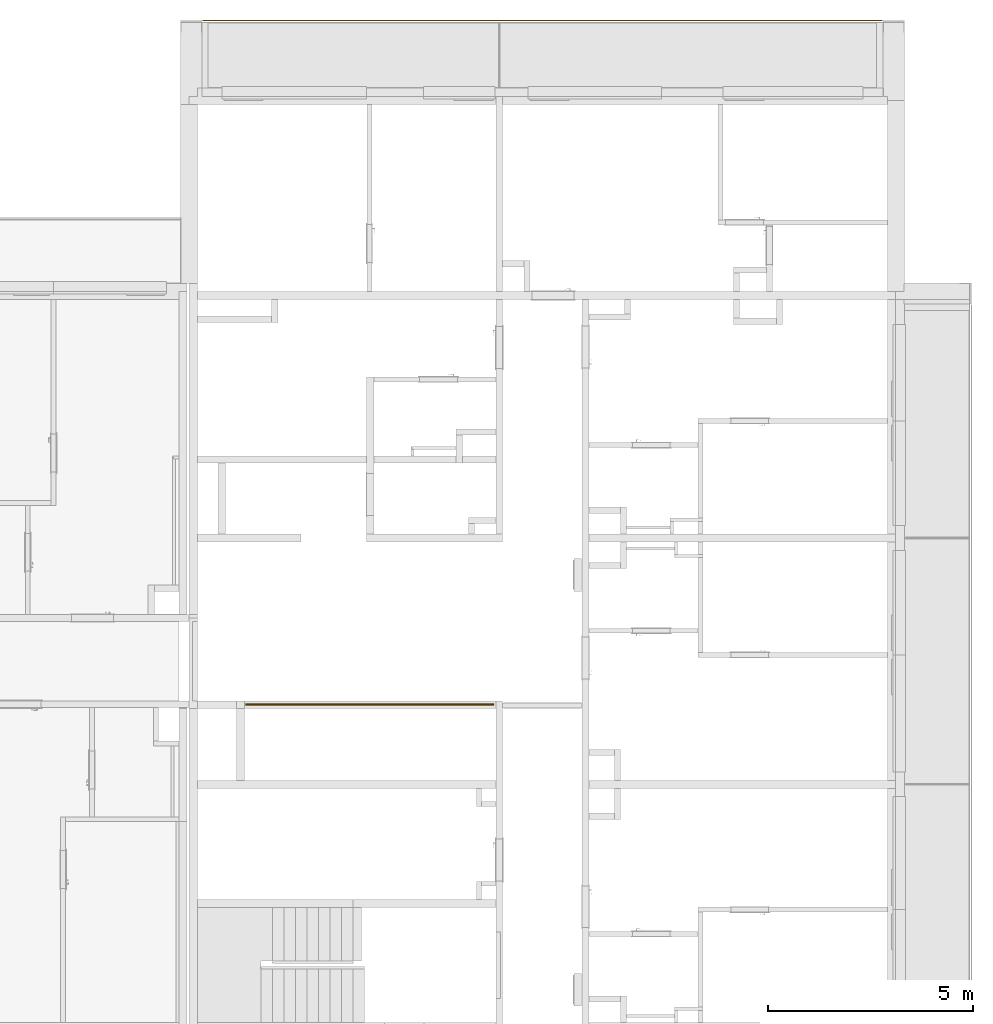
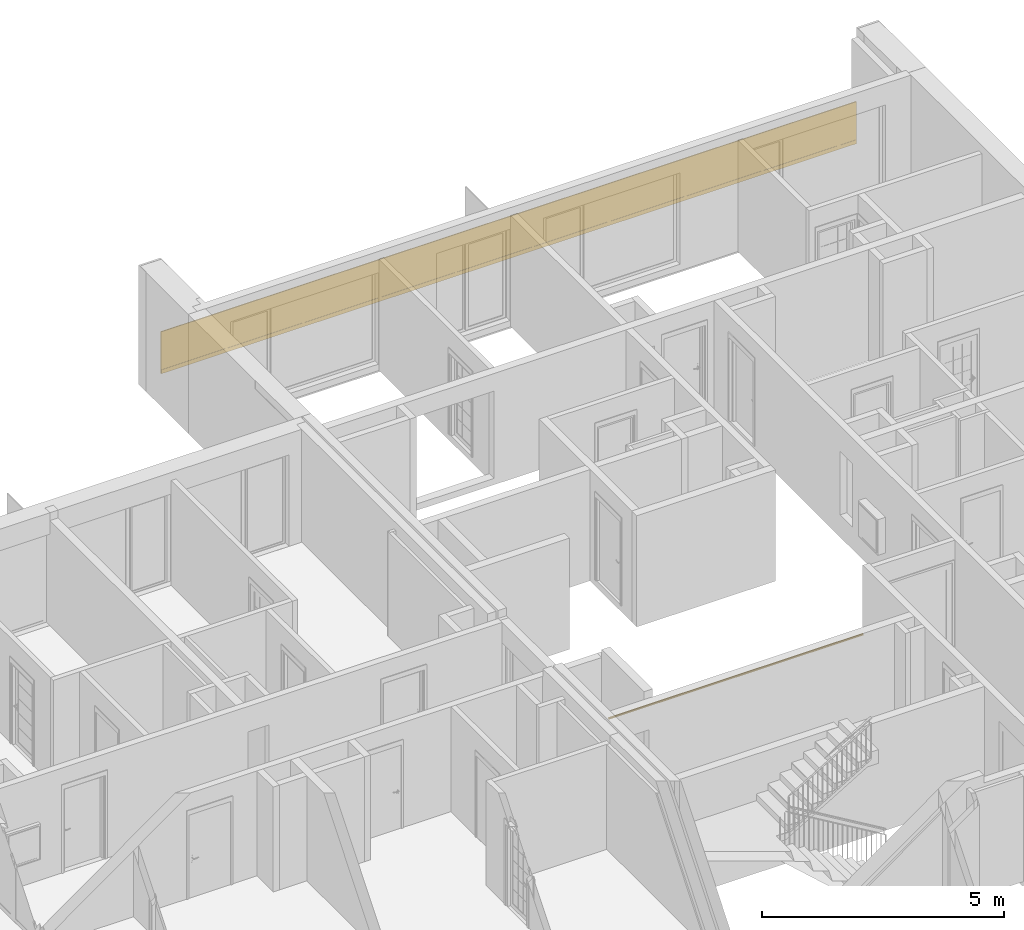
# One storey, part 9 of 66: 2 railings.
"""IFC2X3 building model written with IfcOpenShell, lengths in millimetres."""

from ifc_helpers import new_model, entity, si_unit, converted_unit, derived_unit, money_unit, direction, frame, origin_with_axes, place, context, subcontext, project, spatial, faceted_brep, material, material_list, type_object, element, save


model = new_model("IFC2X3")

# Units and contexts
model_context = context("Model", 3, precision=0.01, world=origin_with_axes(), true_north=direction((0.34421633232, 0.938890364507)))
body_context = subcontext(model_context, "Body", "Model", "MODEL_VIEW")
ifc_project = project(units=[si_unit("LENGTHUNIT", "METRE", prefix="MILLI"), si_unit("AREAUNIT", "SQUARE_METRE"), si_unit("VOLUMEUNIT", "CUBIC_METRE"), converted_unit("PLANEANGLEUNIT", "DEGREE", entity("IfcPlaneAngleMeasure", 0.0174532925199), si_unit("PLANEANGLEUNIT", "RADIAN"), dimensions=[0, 0, 0, 0, 0, 0, 0]), si_unit("SOLIDANGLEUNIT", "STERADIAN"), money_unit("USD"), converted_unit("TIMEUNIT", "Year", entity("IfcTimeMeasure", 31556926.0), si_unit("TIMEUNIT", "SECOND"), dimensions=[0, 0, 1, 0, 0, 0, 0]), si_unit("MASSUNIT", "GRAM", prefix="KILO"), si_unit("THERMODYNAMICTEMPERATUREUNIT", "DEGREE_CELSIUS"), si_unit("LUMINOUSINTENSITYUNIT", "LUMEN"), si_unit("ENERGYUNIT", "JOULE", prefix="MEGA"), derived_unit("THERMALCONDUCTANCEUNIT", [(si_unit("POWERUNIT", "WATT"), 1), (si_unit("LENGTHUNIT", "METRE"), -1), (si_unit("THERMODYNAMICTEMPERATUREUNIT", "KELVIN"), -1)]), derived_unit("SPECIFICHEATCAPACITYUNIT", [(si_unit("ENERGYUNIT", "JOULE"), 1), (si_unit("MASSUNIT", "GRAM", prefix="KILO"), -1), (si_unit("THERMODYNAMICTEMPERATUREUNIT", "KELVIN"), -1)]), derived_unit("MASSDENSITYUNIT", [(si_unit("MASSUNIT", "GRAM", prefix="KILO"), 1), (si_unit("VOLUMEUNIT", "CUBIC_METRE"), -1)])], contexts=[model_context])

# Site, building, storey
site_placement = place(None, origin_with_axes())
site = spatial("IfcSite", under=ifc_project, at=site_placement, Name="USTRONIE MORSKIE", CompositionType="ELEMENT")
building_placement = place(site_placement, origin_with_axes())
building = spatial("IfcBuilding", under=site, at=building_placement, Name="Budynek", CompositionType="ELEMENT")
storey_placement = place(building_placement, frame((0.0, 0.0, 10000.0), z_axis=(0.0, 0.0, 1.0), x_axis=(1.0, 0.0, 0.0)))
storey = spatial("IfcBuildingStorey", under=building, at=storey_placement, Name="PIĘTRO 3", CompositionType="ELEMENT", Elevation=10000.0)

# Railings
ifc_material_1 = material(Name="Stal nierdzewna")
ifc_material_list_1 = material_list([ifc_material_1, ifc_material_1, ifc_material_1])
railing_type = type_object("IfcRailingType", Name="Typ balustrady", PredefinedType="NOTDEFINED")
railing_1_placement = place(storey_placement, frame((409867.915713, 734741.198985, 0.0), z_axis=(0.0, 0.0, 1.0), x_axis=(1.0, 0.0, 0.0)))
element("IfcRailing", 1, at=railing_1_placement, inside=storey, type_object=railing_type, material=ifc_material_list_1, Name="BL1", PredefinedType="NOTDEFINED", context=body_context, shape_type="Brep", body=[
    faceted_brep([(20.0, -25.0, 975.0), (20.0, -24.6201938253, 979.341204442), (-30.0, -24.6201938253, 979.341204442), (-30.0, -25.0, 975.0), (20.0, -24.6201938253, 970.658795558), (20.0, -23.4923155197, 966.449496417), (20.0, -21.6506350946, 962.5), (20.0, -19.151111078, 958.930309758), (20.0, -16.0696902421, 955.848888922), (20.0, -12.5, 953.349364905), (20.0, -8.55050358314, 951.50768448), (20.0, -4.34120444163, 950.379806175), (20.0, 0.0, 950.0), (20.0, 4.34120444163, 950.379806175), (20.0, 8.55050358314, 951.50768448), (20.0, 12.5, 953.349364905), (20.0, 16.0696902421, 955.848888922), (20.0, 19.151111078, 958.930309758), (20.0, 21.6506350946, 962.5), (20.0, 23.4923155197, 966.449496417), (20.0, 24.6201938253, 970.658795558), (20.0, 25.0, 975.0), (20.0, 24.6201938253, 979.341204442), (20.0, 23.4923155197, 983.550503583), (20.0, 21.6506350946, 987.5), (20.0, 19.151111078, 991.069690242), (20.0, 16.0696902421, 994.151111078), (20.0, 12.5, 996.650635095), (20.0, 8.55050358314, 998.49231552), (20.0, 4.34120444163, 999.620193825), (20.0, 0.0, 1000.0), (20.0, -4.34120444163, 999.620193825), (20.0, -8.55050358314, 998.49231552), (20.0, -12.5, 996.650635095), (20.0, -16.0696902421, 994.151111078), (20.0, -19.151111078, 991.069690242), (20.0, -21.6506350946, 987.5), (20.0, -23.4923155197, 983.550503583), (20.0, -15.0, 975.0), (20.0, -14.7721162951, 977.604722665), (20.0, -14.0953893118, 980.13030215), (20.0, -12.9903810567, 982.5), (20.0, -11.4906666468, 984.641814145), (20.0, -9.64181414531, 986.490666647), (20.0, -7.50000000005, 987.990381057), (20.0, -5.13030214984, 989.095389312), (20.0, -2.60472266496, 989.772116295), (20.0, 0.0, 990.0), (20.0, 2.60472266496, 989.772116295), (20.0, 5.13030214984, 989.095389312), (20.0, 7.50000000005, 987.990381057), (20.0, 9.64181414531, 986.490666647), (20.0, 11.4906666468, 984.641814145), (20.0, 12.9903810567, 982.5), (20.0, 14.0953893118, 980.13030215), (20.0, 14.7721162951, 977.604722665), (20.0, 15.0, 975.0), (20.0, 14.7721162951, 972.395277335), (20.0, 14.0953893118, 969.86969785), (20.0, 12.9903810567, 967.5), (20.0, 11.4906666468, 965.358185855), (20.0, 9.64181414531, 963.509333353), (20.0, 7.50000000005, 962.009618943), (20.0, 5.13030214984, 960.904610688), (20.0, 2.60472266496, 960.227883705), (20.0, 0.0, 960.0), (20.0, -2.60472266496, 960.227883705), (20.0, -5.13030214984, 960.904610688), (20.0, -7.50000000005, 962.009618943), (20.0, -9.64181414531, 963.509333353), (20.0, -11.4906666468, 965.358185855), (20.0, -12.9903810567, 967.5), (20.0, -14.0953893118, 969.86969785), (20.0, -14.7721162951, 972.395277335), (-30.0, -23.4923155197, 983.550503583), (-30.0, -21.6506350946, 987.5), (-30.0, -19.151111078, 991.069690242), (-30.0, -16.0696902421, 994.151111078), (-30.0, -12.5, 996.650635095), (-30.0, -8.55050358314, 998.49231552), (-30.0, -4.34120444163, 999.620193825), (-30.0, 0.0, 1000.0), (-30.0, 4.34120444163, 999.620193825), (-30.0, 8.55050358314, 998.49231552), (-30.0, 12.5, 996.650635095), (-30.0, 16.0696902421, 994.151111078), (-30.0, 19.151111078, 991.069690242), (-30.0, 21.6506350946, 987.5), (-30.0, 23.4923155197, 983.550503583), (-30.0, 24.6201938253, 979.341204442), (-30.0, 25.0, 975.0), (-30.0, 24.6201938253, 970.658795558), (-30.0, 23.4923155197, 966.449496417), (-30.0, 21.6506350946, 962.5), (-30.0, 19.151111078, 958.930309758), (-30.0, 16.0696902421, 955.848888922), (-30.0, 12.5, 953.349364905), (-30.0, 8.55050358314, 951.50768448), (-30.0, 4.34120444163, 950.379806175), (-30.0, 0.0, 950.0), (-30.0, -4.34120444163, 950.379806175), (-30.0, -8.55050358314, 951.50768448), (-30.0, -12.5, 953.349364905), (-30.0, -16.0696902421, 955.848888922), (-30.0, -19.151111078, 958.930309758), (-30.0, -21.6506350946, 962.5), (-30.0, -23.4923155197, 966.449496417), (-30.0, -24.6201938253, 970.658795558), (-30.0, -15.0, 975.0), (-30.0, -14.7721162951, 972.395277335), (-30.0, -14.0953893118, 969.86969785), (-30.0, -12.9903810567, 967.5), (-30.0, -11.4906666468, 965.358185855), (-30.0, -9.64181414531, 963.509333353), (-30.0, -7.50000000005, 962.009618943), (-30.0, -5.13030214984, 960.904610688), (-30.0, -2.60472266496, 960.227883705), (-30.0, 0.0, 960.0), (-30.0, 2.60472266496, 960.227883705), (-30.0, 5.13030214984, 960.904610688), (-30.0, 7.50000000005, 962.009618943), (-30.0, 9.64181414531, 963.509333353), (-30.0, 11.4906666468, 965.358185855), (-30.0, 12.9903810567, 967.5), (-30.0, 14.0953893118, 969.86969785), (-30.0, 14.7721162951, 972.395277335), (-30.0, 15.0, 975.0), (-30.0, 14.7721162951, 977.604722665), (-30.0, 14.0953893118, 980.13030215), (-30.0, 12.9903810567, 982.5), (-30.0, 11.4906666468, 984.641814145), (-30.0, 9.64181414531, 986.490666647), (-30.0, 7.50000000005, 987.990381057), (-30.0, 5.13030214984, 989.095389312), (-30.0, 2.60472266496, 989.772116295), (-30.0, 0.0, 990.0), (-30.0, -2.60472266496, 989.772116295), (-30.0, -5.13030214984, 989.095389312), (-30.0, -7.50000000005, 987.990381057), (-30.0, -9.64181414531, 986.490666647), (-30.0, -11.4906666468, 984.641814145), (-30.0, -12.9903810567, 982.5), (-30.0, -14.0953893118, 980.13030215), (-30.0, -14.7721162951, 977.604722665)], [[[0, 1, 2, 3]], [[0, 4, 5, 6, 7, 8, 9, 10, 11, 12, 13, 14, 15, 16, 17, 18, 19, 20, 21, 22, 23, 24, 25, 26, 27, 28, 29, 30, 31, 32, 33, 34, 35, 36, 37, 1], [38, 39, 40, 41, 42, 43, 44, 45, 46, 47, 48, 49, 50, 51, 52, 53, 54, 55, 56, 57, 58, 59, 60, 61, 62, 63, 64, 65, 66, 67, 68, 69, 70, 71, 72, 73]], [[1, 37, 74, 2]], [[3, 2, 74, 75, 76, 77, 78, 79, 80, 81, 82, 83, 84, 85, 86, 87, 88, 89, 90, 91, 92, 93, 94, 95, 96, 97, 98, 99, 100, 101, 102, 103, 104, 105, 106, 107], [108, 109, 110, 111, 112, 113, 114, 115, 116, 117, 118, 119, 120, 121, 122, 123, 124, 125, 126, 127, 128, 129, 130, 131, 132, 133, 134, 135, 136, 137, 138, 139, 140, 141, 142, 143]], [[4, 0, 3, 107]], [[5, 4, 107, 106]], [[6, 5, 106, 105]], [[7, 6, 105, 104]], [[8, 7, 104, 103]], [[9, 8, 103, 102]], [[10, 9, 102, 101]], [[11, 10, 101, 100]], [[12, 11, 100, 99]], [[13, 12, 99, 98]], [[14, 13, 98, 97]], [[15, 14, 97, 96]], [[16, 15, 96, 95]], [[17, 16, 95, 94]], [[18, 17, 94, 93]], [[19, 18, 93, 92]], [[20, 19, 92, 91]], [[21, 20, 91, 90]], [[22, 21, 90, 89]], [[23, 22, 89, 88]], [[24, 23, 88, 87]], [[25, 24, 87, 86]], [[26, 25, 86, 85]], [[27, 26, 85, 84]], [[28, 27, 84, 83]], [[29, 28, 83, 82]], [[30, 29, 82, 81]], [[31, 30, 81, 80]], [[32, 31, 80, 79]], [[33, 32, 79, 78]], [[34, 33, 78, 77]], [[35, 34, 77, 76]], [[36, 35, 76, 75]], [[37, 36, 75, 74]], [[39, 38, 108, 143]], [[40, 39, 143, 142]], [[41, 40, 142, 141]], [[42, 41, 141, 140]], [[43, 42, 140, 139]], [[44, 43, 139, 138]], [[45, 44, 138, 137]], [[46, 45, 137, 136]], [[47, 46, 136, 135]], [[48, 47, 135, 134]], [[49, 48, 134, 133]], [[50, 49, 133, 132]], [[51, 50, 132, 131]], [[52, 51, 131, 130]], [[53, 52, 130, 129]], [[54, 53, 129, 128]], [[55, 54, 128, 127]], [[56, 55, 127, 126]], [[57, 56, 126, 125]], [[58, 57, 125, 124]], [[59, 58, 124, 123]], [[60, 59, 123, 122]], [[61, 60, 122, 121]], [[62, 61, 121, 120]], [[63, 62, 120, 119]], [[64, 63, 119, 118]], [[65, 64, 118, 117]], [[66, 65, 117, 116]], [[67, 66, 116, 115]], [[68, 67, 115, 114]], [[69, 68, 114, 113]], [[70, 69, 113, 112]], [[71, 70, 112, 111]], [[72, 71, 111, 110]], [[73, 72, 110, 109]], [[38, 73, 109, 108]]]),
    faceted_brep([(5970.00520575, 25.0, 975.0), (5970.00520575, 24.6201938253, 979.341204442), (6020.00520575, 24.6201938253, 979.341204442), (6020.00520575, 25.0, 975.0), (5970.00520575, 24.6201938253, 970.658795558), (5970.00520575, 23.4923155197, 966.449496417), (5970.00520575, 21.6506350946, 962.5), (5970.00520575, 19.151111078, 958.930309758), (5970.00520575, 16.0696902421, 955.848888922), (5970.00520575, 12.5, 953.349364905), (5970.00520575, 8.55050358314, 951.50768448), (5970.00520575, 4.34120444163, 950.379806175), (5970.00520575, 0.0, 950.0), (5970.00520575, -4.34120444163, 950.379806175), (5970.00520575, -8.55050358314, 951.50768448), (5970.00520575, -12.5, 953.349364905), (5970.00520575, -16.0696902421, 955.848888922), (5970.00520575, -19.151111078, 958.930309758), (5970.00520575, -21.6506350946, 962.5), (5970.00520575, -23.4923155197, 966.449496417), (5970.00520575, -24.6201938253, 970.658795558), (5970.00520575, -25.0, 975.0), (5970.00520575, -24.6201938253, 979.341204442), (5970.00520575, -23.4923155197, 983.550503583), (5970.00520575, -21.6506350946, 987.5), (5970.00520575, -19.151111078, 991.069690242), (5970.00520575, -16.0696902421, 994.151111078), (5970.00520575, -12.5, 996.650635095), (5970.00520575, -8.55050358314, 998.49231552), (5970.00520575, -4.34120444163, 999.620193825), (5970.00520575, 0.0, 1000.0), (5970.00520575, 4.34120444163, 999.620193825), (5970.00520575, 8.55050358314, 998.49231552), (5970.00520575, 12.5, 996.650635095), (5970.00520575, 16.0696902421, 994.151111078), (5970.00520575, 19.151111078, 991.069690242), (5970.00520575, 21.6506350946, 987.5), (5970.00520575, 23.4923155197, 983.550503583), (5970.00520575, 15.0, 975.0), (5970.00520575, 14.7721162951, 977.604722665), (5970.00520575, 14.0953893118, 980.13030215), (5970.00520575, 12.9903810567, 982.5), (5970.00520575, 11.4906666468, 984.641814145), (5970.00520575, 9.64181414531, 986.490666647), (5970.00520575, 7.50000000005, 987.990381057), (5970.00520575, 5.13030214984, 989.095389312), (5970.00520575, 2.60472266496, 989.772116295), (5970.00520575, 0.0, 990.0), (5970.00520575, -2.60472266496, 989.772116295), (5970.00520575, -5.13030214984, 989.095389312), (5970.00520575, -7.50000000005, 987.990381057), (5970.00520575, -9.64181414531, 986.490666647), (5970.00520575, -11.4906666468, 984.641814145), (5970.00520575, -12.9903810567, 982.5), (5970.00520575, -14.0953893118, 980.13030215), (5970.00520575, -14.7721162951, 977.604722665), (5970.00520575, -15.0, 975.0), (5970.00520575, -14.7721162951, 972.395277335), (5970.00520575, -14.0953893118, 969.86969785), (5970.00520575, -12.9903810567, 967.5), (5970.00520575, -11.4906666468, 965.358185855), (5970.00520575, -9.64181414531, 963.509333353), (5970.00520575, -7.50000000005, 962.009618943), (5970.00520575, -5.13030214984, 960.904610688), (5970.00520575, -2.60472266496, 960.227883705), (5970.00520575, 0.0, 960.0), (5970.00520575, 2.60472266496, 960.227883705), (5970.00520575, 5.13030214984, 960.904610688), (5970.00520575, 7.50000000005, 962.009618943), (5970.00520575, 9.64181414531, 963.509333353), (5970.00520575, 11.4906666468, 965.358185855), (5970.00520575, 12.9903810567, 967.5), (5970.00520575, 14.0953893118, 969.86969785), (5970.00520575, 14.7721162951, 972.395277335), (6020.00520575, 23.4923155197, 983.550503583), (6020.00520575, 21.6506350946, 987.5), (6020.00520575, 19.151111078, 991.069690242), (6020.00520575, 16.0696902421, 994.151111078), (6020.00520575, 12.5, 996.650635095), (6020.00520575, 8.55050358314, 998.49231552), (6020.00520575, 4.34120444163, 999.620193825), (6020.00520575, 0.0, 1000.0), (6020.00520575, -4.34120444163, 999.620193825), (6020.00520575, -8.55050358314, 998.49231552), (6020.00520575, -12.5, 996.650635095), (6020.00520575, -16.0696902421, 994.151111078), (6020.00520575, -19.151111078, 991.069690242), (6020.00520575, -21.6506350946, 987.5), (6020.00520575, -23.4923155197, 983.550503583), (6020.00520575, -24.6201938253, 979.341204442), (6020.00520575, -25.0, 975.0), (6020.00520575, -24.6201938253, 970.658795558), (6020.00520575, -23.4923155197, 966.449496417), (6020.00520575, -21.6506350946, 962.5), (6020.00520575, -19.151111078, 958.930309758), (6020.00520575, -16.0696902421, 955.848888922), (6020.00520575, -12.5, 953.349364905), (6020.00520575, -8.55050358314, 951.50768448), (6020.00520575, -4.34120444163, 950.379806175), (6020.00520575, 0.0, 950.0), (6020.00520575, 4.34120444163, 950.379806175), (6020.00520575, 8.55050358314, 951.50768448), (6020.00520575, 12.5, 953.349364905), (6020.00520575, 16.0696902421, 955.848888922), (6020.00520575, 19.151111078, 958.930309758), (6020.00520575, 21.6506350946, 962.5), (6020.00520575, 23.4923155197, 966.449496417), (6020.00520575, 24.6201938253, 970.658795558), (6020.00520575, 15.0, 975.0), (6020.00520575, 14.7721162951, 972.395277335), (6020.00520575, 14.0953893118, 969.86969785), (6020.00520575, 12.9903810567, 967.5), (6020.00520575, 11.4906666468, 965.358185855), (6020.00520575, 9.64181414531, 963.509333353), (6020.00520575, 7.50000000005, 962.009618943), (6020.00520575, 5.13030214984, 960.904610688), (6020.00520575, 2.60472266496, 960.227883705), (6020.00520575, 0.0, 960.0), (6020.00520575, -2.60472266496, 960.227883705), (6020.00520575, -5.13030214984, 960.904610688), (6020.00520575, -7.50000000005, 962.009618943), (6020.00520575, -9.64181414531, 963.509333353), (6020.00520575, -11.4906666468, 965.358185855), (6020.00520575, -12.9903810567, 967.5), (6020.00520575, -14.0953893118, 969.86969785), (6020.00520575, -14.7721162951, 972.395277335), (6020.00520575, -15.0, 975.0), (6020.00520575, -14.7721162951, 977.604722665), (6020.00520575, -14.0953893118, 980.13030215), (6020.00520575, -12.9903810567, 982.5), (6020.00520575, -11.4906666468, 984.641814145), (6020.00520575, -9.64181414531, 986.490666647), (6020.00520575, -7.50000000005, 987.990381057), (6020.00520575, -5.13030214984, 989.095389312), (6020.00520575, -2.60472266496, 989.772116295), (6020.00520575, 0.0, 990.0), (6020.00520575, 2.60472266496, 989.772116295), (6020.00520575, 5.13030214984, 989.095389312), (6020.00520575, 7.50000000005, 987.990381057), (6020.00520575, 9.64181414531, 986.490666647), (6020.00520575, 11.4906666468, 984.641814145), (6020.00520575, 12.9903810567, 982.5), (6020.00520575, 14.0953893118, 980.13030215), (6020.00520575, 14.7721162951, 977.604722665)], [[[0, 1, 2, 3]], [[0, 4, 5, 6, 7, 8, 9, 10, 11, 12, 13, 14, 15, 16, 17, 18, 19, 20, 21, 22, 23, 24, 25, 26, 27, 28, 29, 30, 31, 32, 33, 34, 35, 36, 37, 1], [38, 39, 40, 41, 42, 43, 44, 45, 46, 47, 48, 49, 50, 51, 52, 53, 54, 55, 56, 57, 58, 59, 60, 61, 62, 63, 64, 65, 66, 67, 68, 69, 70, 71, 72, 73]], [[1, 37, 74, 2]], [[3, 2, 74, 75, 76, 77, 78, 79, 80, 81, 82, 83, 84, 85, 86, 87, 88, 89, 90, 91, 92, 93, 94, 95, 96, 97, 98, 99, 100, 101, 102, 103, 104, 105, 106, 107], [108, 109, 110, 111, 112, 113, 114, 115, 116, 117, 118, 119, 120, 121, 122, 123, 124, 125, 126, 127, 128, 129, 130, 131, 132, 133, 134, 135, 136, 137, 138, 139, 140, 141, 142, 143]], [[4, 0, 3, 107]], [[5, 4, 107, 106]], [[6, 5, 106, 105]], [[7, 6, 105, 104]], [[8, 7, 104, 103]], [[9, 8, 103, 102]], [[10, 9, 102, 101]], [[11, 10, 101, 100]], [[12, 11, 100, 99]], [[13, 12, 99, 98]], [[14, 13, 98, 97]], [[15, 14, 97, 96]], [[16, 15, 96, 95]], [[17, 16, 95, 94]], [[18, 17, 94, 93]], [[19, 18, 93, 92]], [[20, 19, 92, 91]], [[21, 20, 91, 90]], [[22, 21, 90, 89]], [[23, 22, 89, 88]], [[24, 23, 88, 87]], [[25, 24, 87, 86]], [[26, 25, 86, 85]], [[27, 26, 85, 84]], [[28, 27, 84, 83]], [[29, 28, 83, 82]], [[30, 29, 82, 81]], [[31, 30, 81, 80]], [[32, 31, 80, 79]], [[33, 32, 79, 78]], [[34, 33, 78, 77]], [[35, 34, 77, 76]], [[36, 35, 76, 75]], [[37, 36, 75, 74]], [[39, 38, 108, 143]], [[40, 39, 143, 142]], [[41, 40, 142, 141]], [[42, 41, 141, 140]], [[43, 42, 140, 139]], [[44, 43, 139, 138]], [[45, 44, 138, 137]], [[46, 45, 137, 136]], [[47, 46, 136, 135]], [[48, 47, 135, 134]], [[49, 48, 134, 133]], [[50, 49, 133, 132]], [[51, 50, 132, 131]], [[52, 51, 131, 130]], [[53, 52, 130, 129]], [[54, 53, 129, 128]], [[55, 54, 128, 127]], [[56, 55, 127, 126]], [[57, 56, 126, 125]], [[58, 57, 125, 124]], [[59, 58, 124, 123]], [[60, 59, 123, 122]], [[61, 60, 122, 121]], [[62, 61, 121, 120]], [[63, 62, 120, 119]], [[64, 63, 119, 118]], [[65, 64, 118, 117]], [[66, 65, 117, 116]], [[67, 66, 116, 115]], [[68, 67, 115, 114]], [[69, 68, 114, 113]], [[70, 69, 113, 112]], [[71, 70, 112, 111]], [[72, 71, 111, 110]], [[73, 72, 110, 109]], [[38, 73, 109, 108]]]),
    faceted_brep([(20.0, 25.0, 975.0), (20.0, 24.6201938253, 979.341204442), (5970.00520575, 24.6201938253, 979.341204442), (5970.00520575, 25.0, 975.0), (20.0, 24.6201938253, 970.658795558), (20.0, 23.4923155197, 966.449496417), (20.0, 21.6506350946, 962.5), (20.0, 19.151111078, 958.930309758), (20.0, 16.0696902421, 955.848888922), (20.0, 12.5, 953.349364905), (20.0, 8.55050358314, 951.50768448), (20.0, 4.34120444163, 950.379806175), (20.0, 0.0, 950.0), (20.0, -4.34120444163, 950.379806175), (20.0, -8.55050358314, 951.50768448), (20.0, -12.5, 953.349364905), (20.0, -16.0696902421, 955.848888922), (20.0, -19.151111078, 958.930309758), (20.0, -21.6506350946, 962.5), (20.0, -23.4923155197, 966.449496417), (20.0, -24.6201938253, 970.658795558), (20.0, -25.0, 975.0), (20.0, -24.6201938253, 979.341204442), (20.0, -23.4923155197, 983.550503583), (20.0, -21.6506350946, 987.5), (20.0, -19.151111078, 991.069690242), (20.0, -16.0696902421, 994.151111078), (20.0, -12.5, 996.650635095), (20.0, -8.55050358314, 998.49231552), (20.0, -4.34120444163, 999.620193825), (20.0, 0.0, 1000.0), (20.0, 4.34120444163, 999.620193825), (20.0, 8.55050358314, 998.49231552), (20.0, 12.5, 996.650635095), (20.0, 16.0696902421, 994.151111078), (20.0, 19.151111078, 991.069690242), (20.0, 21.6506350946, 987.5), (20.0, 23.4923155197, 983.550503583), (20.0, 15.0, 975.0), (20.0, 14.7721162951, 977.604722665), (20.0, 14.0953893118, 980.13030215), (20.0, 12.9903810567, 982.5), (20.0, 11.4906666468, 984.641814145), (20.0, 9.64181414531, 986.490666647), (20.0, 7.50000000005, 987.990381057), (20.0, 5.13030214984, 989.095389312), (20.0, 2.60472266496, 989.772116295), (20.0, 0.0, 990.0), (20.0, -2.60472266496, 989.772116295), (20.0, -5.13030214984, 989.095389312), (20.0, -7.50000000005, 987.990381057), (20.0, -9.64181414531, 986.490666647), (20.0, -11.4906666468, 984.641814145), (20.0, -12.9903810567, 982.5), (20.0, -14.0953893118, 980.13030215), (20.0, -14.7721162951, 977.604722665), (20.0, -15.0, 975.0), (20.0, -14.7721162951, 972.395277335), (20.0, -14.0953893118, 969.86969785), (20.0, -12.9903810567, 967.5), (20.0, -11.4906666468, 965.358185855), (20.0, -9.64181414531, 963.509333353), (20.0, -7.50000000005, 962.009618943), (20.0, -5.13030214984, 960.904610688), (20.0, -2.60472266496, 960.227883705), (20.0, 0.0, 960.0), (20.0, 2.60472266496, 960.227883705), (20.0, 5.13030214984, 960.904610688), (20.0, 7.50000000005, 962.009618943), (20.0, 9.64181414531, 963.509333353), (20.0, 11.4906666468, 965.358185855), (20.0, 12.9903810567, 967.5), (20.0, 14.0953893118, 969.86969785), (20.0, 14.7721162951, 972.395277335), (5970.00520575, 23.4923155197, 983.550503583), (5970.00520575, 21.6506350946, 987.5), (5970.00520575, 19.151111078, 991.069690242), (5970.00520575, 16.0696902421, 994.151111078), (5970.00520575, 12.5, 996.650635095), (5970.00520575, 8.55050358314, 998.49231552), (5970.00520575, 4.34120444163, 999.620193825), (5970.00520575, 0.0, 1000.0), (5970.00520575, -4.34120444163, 999.620193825), (5970.00520575, -8.55050358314, 998.49231552), (5970.00520575, -12.5, 996.650635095), (5970.00520575, -16.0696902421, 994.151111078), (5970.00520575, -19.151111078, 991.069690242), (5970.00520575, -21.6506350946, 987.5), (5970.00520575, -23.4923155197, 983.550503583), (5970.00520575, -24.6201938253, 979.341204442), (5970.00520575, -25.0, 975.0), (5970.00520575, -24.6201938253, 970.658795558), (5970.00520575, -23.4923155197, 966.449496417), (5970.00520575, -21.6506350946, 962.5), (5970.00520575, -19.151111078, 958.930309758), (5970.00520575, -16.0696902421, 955.848888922), (5970.00520575, -12.5, 953.349364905), (5970.00520575, -8.55050358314, 951.50768448), (5970.00520575, -4.34120444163, 950.379806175), (5970.00520575, 0.0, 950.0), (5970.00520575, 4.34120444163, 950.379806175), (5970.00520575, 8.55050358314, 951.50768448), (5970.00520575, 12.5, 953.349364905), (5970.00520575, 16.0696902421, 955.848888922), (5970.00520575, 19.151111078, 958.930309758), (5970.00520575, 21.6506350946, 962.5), (5970.00520575, 23.4923155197, 966.449496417), (5970.00520575, 24.6201938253, 970.658795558), (5970.00520575, 15.0, 975.0), (5970.00520575, 14.7721162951, 972.395277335), (5970.00520575, 14.0953893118, 969.86969785), (5970.00520575, 12.9903810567, 967.5), (5970.00520575, 11.4906666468, 965.358185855), (5970.00520575, 9.64181414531, 963.509333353), (5970.00520575, 7.50000000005, 962.009618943), (5970.00520575, 5.13030214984, 960.904610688), (5970.00520575, 2.60472266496, 960.227883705), (5970.00520575, 0.0, 960.0), (5970.00520575, -2.60472266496, 960.227883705), (5970.00520575, -5.13030214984, 960.904610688), (5970.00520575, -7.50000000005, 962.009618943), (5970.00520575, -9.64181414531, 963.509333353), (5970.00520575, -11.4906666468, 965.358185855), (5970.00520575, -12.9903810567, 967.5), (5970.00520575, -14.0953893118, 969.86969785), (5970.00520575, -14.7721162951, 972.395277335), (5970.00520575, -15.0, 975.0), (5970.00520575, -14.7721162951, 977.604722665), (5970.00520575, -14.0953893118, 980.13030215), (5970.00520575, -12.9903810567, 982.5), (5970.00520575, -11.4906666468, 984.641814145), (5970.00520575, -9.64181414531, 986.490666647), (5970.00520575, -7.50000000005, 987.990381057), (5970.00520575, -5.13030214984, 989.095389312), (5970.00520575, -2.60472266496, 989.772116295), (5970.00520575, 0.0, 990.0), (5970.00520575, 2.60472266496, 989.772116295), (5970.00520575, 5.13030214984, 989.095389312), (5970.00520575, 7.50000000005, 987.990381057), (5970.00520575, 9.64181414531, 986.490666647), (5970.00520575, 11.4906666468, 984.641814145), (5970.00520575, 12.9903810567, 982.5), (5970.00520575, 14.0953893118, 980.13030215), (5970.00520575, 14.7721162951, 977.604722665)], [[[0, 1, 2, 3]], [[0, 4, 5, 6, 7, 8, 9, 10, 11, 12, 13, 14, 15, 16, 17, 18, 19, 20, 21, 22, 23, 24, 25, 26, 27, 28, 29, 30, 31, 32, 33, 34, 35, 36, 37, 1], [38, 39, 40, 41, 42, 43, 44, 45, 46, 47, 48, 49, 50, 51, 52, 53, 54, 55, 56, 57, 58, 59, 60, 61, 62, 63, 64, 65, 66, 67, 68, 69, 70, 71, 72, 73]], [[1, 37, 74, 2]], [[3, 2, 74, 75, 76, 77, 78, 79, 80, 81, 82, 83, 84, 85, 86, 87, 88, 89, 90, 91, 92, 93, 94, 95, 96, 97, 98, 99, 100, 101, 102, 103, 104, 105, 106, 107], [108, 109, 110, 111, 112, 113, 114, 115, 116, 117, 118, 119, 120, 121, 122, 123, 124, 125, 126, 127, 128, 129, 130, 131, 132, 133, 134, 135, 136, 137, 138, 139, 140, 141, 142, 143]], [[4, 0, 3, 107]], [[5, 4, 107, 106]], [[6, 5, 106, 105]], [[7, 6, 105, 104]], [[8, 7, 104, 103]], [[9, 8, 103, 102]], [[10, 9, 102, 101]], [[11, 10, 101, 100]], [[12, 11, 100, 99]], [[13, 12, 99, 98]], [[14, 13, 98, 97]], [[15, 14, 97, 96]], [[16, 15, 96, 95]], [[17, 16, 95, 94]], [[18, 17, 94, 93]], [[19, 18, 93, 92]], [[20, 19, 92, 91]], [[21, 20, 91, 90]], [[22, 21, 90, 89]], [[23, 22, 89, 88]], [[24, 23, 88, 87]], [[25, 24, 87, 86]], [[26, 25, 86, 85]], [[27, 26, 85, 84]], [[28, 27, 84, 83]], [[29, 28, 83, 82]], [[30, 29, 82, 81]], [[31, 30, 81, 80]], [[32, 31, 80, 79]], [[33, 32, 79, 78]], [[34, 33, 78, 77]], [[35, 34, 77, 76]], [[36, 35, 76, 75]], [[37, 36, 75, 74]], [[39, 38, 108, 143]], [[40, 39, 143, 142]], [[41, 40, 142, 141]], [[42, 41, 141, 140]], [[43, 42, 140, 139]], [[44, 43, 139, 138]], [[45, 44, 138, 137]], [[46, 45, 137, 136]], [[47, 46, 136, 135]], [[48, 47, 135, 134]], [[49, 48, 134, 133]], [[50, 49, 133, 132]], [[51, 50, 132, 131]], [[52, 51, 131, 130]], [[53, 52, 130, 129]], [[54, 53, 129, 128]], [[55, 54, 128, 127]], [[56, 55, 127, 126]], [[57, 56, 126, 125]], [[58, 57, 125, 124]], [[59, 58, 124, 123]], [[60, 59, 123, 122]], [[61, 60, 122, 121]], [[62, 61, 121, 120]], [[63, 62, 120, 119]], [[64, 63, 119, 118]], [[65, 64, 118, 117]], [[66, 65, 117, 116]], [[67, 66, 116, 115]], [[68, 67, 115, 114]], [[69, 68, 114, 113]], [[70, 69, 113, 112]], [[71, 70, 112, 111]], [[72, 71, 111, 110]], [[73, 72, 110, 109]], [[38, 73, 109, 108]]]),
])
ifc_material_2 = material(Name="Szkło struktualne")
ifc_material_3 = material(Name="Profile aluminiowe")
ifc_material_list_2 = material_list([ifc_material_2, ifc_material_3])
railing_2_placement = place(storey_placement, frame((409067.920919, 751396.199036, 30.0), z_axis=(0.0, 0.0, 1.0), x_axis=(1.0, 0.0, 0.0)))
element("IfcRailing", 2, at=railing_2_placement, inside=storey, type_object=railing_type, material=ifc_material_list_2, Name="BL1", PredefinedType="NOTDEFINED", context=body_context, shape_type="Brep", body=[
    faceted_brep([(16280.0, 9.99999999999, -100.0), (-280.0, 9.99999999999, -100.0), (-280.0, 9.99999999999, 950.0), (16280.0, 9.99999999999, 950.0), (-280.0, -9.99999999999, -100.0), (16280.0, -9.99999999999, -100.0), (-280.0, -9.99999999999, 950.0), (16280.0, -9.99999999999, 950.0)], [[[0, 1, 2, 3]], [[4, 1, 0, 5]], [[6, 2, 1, 4]], [[3, 2, 6, 7]], [[0, 3, 7, 5]], [[6, 4, 5, 7]]]),
    faceted_brep([(16280.0, -15.0, -5.0), (-280.0, -15.0, -5.0), (-280.0, -15.0, -105.0), (16280.0, -15.0, -105.0), (16280.0, -9.99999999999, -5.0), (-280.0, -9.99999999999, -5.0), (-280.0, -9.99999999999, -100.0), (-280.0, 9.99999999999, -100.0), (-280.0, 9.99999999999, -5.0), (-280.0, 15.0, -5.0), (-280.0, 15.0, -105.0), (16280.0, 15.0, -105.0), (16280.0, 15.0, -5.0), (16280.0, 9.99999999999, -5.0), (16280.0, 9.99999999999, -100.0), (16280.0, -9.99999999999, -100.0)], [[[0, 1, 2, 3]], [[1, 0, 4, 5]], [[6, 7, 8, 9, 10, 2, 1, 5]], [[10, 11, 3, 2]], [[11, 12, 13, 14, 15, 4, 0, 3]], [[15, 6, 5, 4]], [[7, 6, 15, 14]], [[8, 7, 14, 13]], [[9, 8, 13, 12]], [[11, 10, 9, 12]]]),
])

save(model, "model.ifc")
